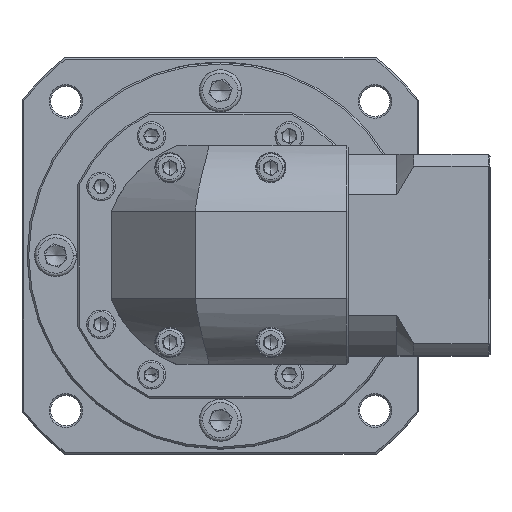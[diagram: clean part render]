
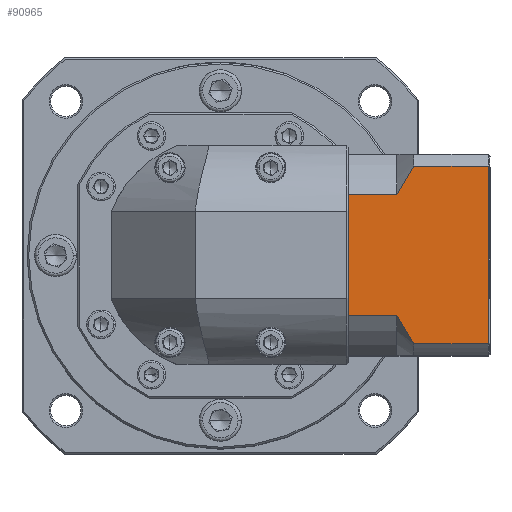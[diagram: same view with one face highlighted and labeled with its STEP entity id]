
A CAD part, top view. The second image highlights one B-rep face of the part: STEP entity #90965.
In plain terms, the highlighted planar face has unit normal (0, 0, 1).
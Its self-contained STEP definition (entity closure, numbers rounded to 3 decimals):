
#2209 = VERTEX_POINT ( 'NONE', #51867 ) ;
#2719 = VERTEX_POINT ( 'NONE', #141644 ) ;
#4077 = CARTESIAN_POINT ( 'NONE',  ( 166.53, 99.487, 2.916 ) ) ;
#5860 = EDGE_CURVE ( 'NONE', #119463, #21417, #12041, .T. ) ;
#6491 = CARTESIAN_POINT ( 'NONE',  ( 143.83, 43.03, 2.916 ) ) ;
#8359 = ORIENTED_EDGE ( 'NONE', *, *, #135238, .F. ) ;
#8448 = LINE ( 'NONE', #118538, #122917 ) ;
#9731 = FACE_OUTER_BOUND ( 'NONE', #33217, .T. ) ;
#9786 = DIRECTION ( 'NONE',  ( 0., -1., 0. ) ) ;
#12041 = LINE ( 'NONE', #105482, #137955 ) ;
#12908 = DIRECTION ( 'NONE',  ( 0., -1., 0. ) ) ;
#15683 = EDGE_CURVE ( 'NONE', #74119, #153371, #29473, .T. ) ;
#15810 = DIRECTION ( 'NONE',  ( 0., 0., -1. ) ) ;
#16829 = DIRECTION ( 'NONE',  ( 1., 0., 0. ) ) ;
#18077 = DIRECTION ( 'NONE',  ( 0., -1., 0. ) ) ;
#18957 = CARTESIAN_POINT ( 'NONE',  ( 140.38, 48.577, 2.916 ) ) ;
#21417 = VERTEX_POINT ( 'NONE', #103660 ) ;
#23585 = CARTESIAN_POINT ( 'NONE',  ( 140.381, 90.398, 2.916 ) ) ;
#23739 = VECTOR ( 'NONE', #82790, 1000. ) ;
#29473 = B_SPLINE_CURVE_WITH_KNOTS ( 'NONE', 3,
 ( #30165, #92012, #18957, #104280, #55761, #6491 ),
 .UNSPECIFIED., .F., .F.,
 ( 4, 2, 4 ),
 ( 0.1, 0.104, 0.109 ),
 .UNSPECIFIED. ) ;
#30165 = CARTESIAN_POINT ( 'NONE',  ( 138.83, 51.459, 2.916 ) ) ;
#30467 = LINE ( 'NONE', #36327, #152598 ) ;
#33217 = EDGE_LOOP ( 'NONE', ( #120926, #123664, #8359, #123119, #107793, #116755, #73394, #72252, #98064, #42567 ) ) ;
#34812 = CARTESIAN_POINT ( 'NONE',  ( 143.83, 95.945, 2.916 ) ) ;
#35987 = VERTEX_POINT ( 'NONE', #52639 ) ;
#36327 = CARTESIAN_POINT ( 'NONE',  ( 138.83, 95.945, 2.916 ) ) ;
#41898 = VERTEX_POINT ( 'NONE', #115260 ) ;
#42567 = ORIENTED_EDGE ( 'NONE', *, *, #15683, .T. ) ;
#42879 = VECTOR ( 'NONE', #51065, 1000. ) ;
#45527 = EDGE_CURVE ( 'NONE', #2719, #153371, #45736, .T. ) ;
#45736 = LINE ( 'NONE', #89924, #125931 ) ;
#48029 = DIRECTION ( 'NONE',  ( 1., 0., 0. ) ) ;
#48117 = EDGE_CURVE ( 'NONE', #21417, #2209, #86653, .T. ) ;
#48537 = LINE ( 'NONE', #85718, #42879 ) ;
#49711 = CARTESIAN_POINT ( 'NONE',  ( 138.83, 51.459, 2.916 ) ) ;
#51065 = DIRECTION ( 'NONE',  ( 1., 0., 0. ) ) ;
#51867 = CARTESIAN_POINT ( 'NONE',  ( 124.33, 51.459, 2.916 ) ) ;
#52639 = CARTESIAN_POINT ( 'NONE',  ( 138.83, 87.515, 2.916 ) ) ;
#55761 = CARTESIAN_POINT ( 'NONE',  ( 142.928, 44.392, 2.916 ) ) ;
#56219 = CARTESIAN_POINT ( 'NONE',  ( 143.83, 95.945, 2.916 ) ) ;
#60350 = VECTOR ( 'NONE', #94941, 1000. ) ;
#67671 = LINE ( 'NONE', #83317, #23739 ) ;
#69902 = CARTESIAN_POINT ( 'NONE',  ( 166.03, 99.487, 2.916 ) ) ;
#72138 = CARTESIAN_POINT ( 'NONE',  ( 142.057, 93.206, 2.916 ) ) ;
#72252 = ORIENTED_EDGE ( 'NONE', *, *, #48117, .T. ) ;
#73394 = ORIENTED_EDGE ( 'NONE', *, *, #5860, .T. ) ;
#74119 = VERTEX_POINT ( 'NONE', #49711 ) ;
#78756 = VERTEX_POINT ( 'NONE', #56219 ) ;
#79410 = B_SPLINE_CURVE_WITH_KNOTS ( 'NONE', 3,
 ( #34812, #119580, #72138, #23585, #120113, #94558 ),
 .UNSPECIFIED., .F., .F.,
 ( 4, 2, 4 ),
 ( 0.052, 0.057, 0.062 ),
 .UNSPECIFIED. ) ;
#82790 = DIRECTION ( 'NONE',  ( -1., 0., 0. ) ) ;
#83317 = CARTESIAN_POINT ( 'NONE',  ( 138.83, 51.459, 2.916 ) ) ;
#85718 = CARTESIAN_POINT ( 'NONE',  ( 138.83, 87.515, 2.916 ) ) ;
#86653 = LINE ( 'NONE', #141518, #136244 ) ;
#89924 = CARTESIAN_POINT ( 'NONE',  ( 138.83, 43.03, 2.916 ) ) ;
#90965 = ADVANCED_FACE ( 'NONE', ( #9731 ), #103216, .F. ) ;
#92012 = CARTESIAN_POINT ( 'NONE',  ( 139.58, 50.003, 2.916 ) ) ;
#94558 = CARTESIAN_POINT ( 'NONE',  ( 138.83, 87.515, 2.916 ) ) ;
#94941 = DIRECTION ( 'NONE',  ( 0., 1., 0. ) ) ;
#95360 = CARTESIAN_POINT ( 'NONE',  ( 124.33, 87.515, 2.916 ) ) ;
#98064 = ORIENTED_EDGE ( 'NONE', *, *, #133720, .F. ) ;
#98418 = EDGE_CURVE ( 'NONE', #124616, #119463, #8448, .T. ) ;
#100405 = LINE ( 'NONE', #69902, #60350 ) ;
#103216 = PLANE ( 'NONE',  #145361 ) ;
#103660 = CARTESIAN_POINT ( 'NONE',  ( 124.33, 52.45, 2.916 ) ) ;
#104280 = CARTESIAN_POINT ( 'NONE',  ( 142.054, 45.772, 2.916 ) ) ;
#105482 = CARTESIAN_POINT ( 'NONE',  ( 124.33, 99.487, 2.916 ) ) ;
#107793 = ORIENTED_EDGE ( 'NONE', *, *, #112441, .F. ) ;
#112441 = EDGE_CURVE ( 'NONE', #124616, #35987, #48537, .T. ) ;
#115260 = CARTESIAN_POINT ( 'NONE',  ( 166.03, 95.945, 2.916 ) ) ;
#116583 = DIRECTION ( 'NONE',  ( -1., 0., 0. ) ) ;
#116755 = ORIENTED_EDGE ( 'NONE', *, *, #98418, .T. ) ;
#118538 = CARTESIAN_POINT ( 'NONE',  ( 124.33, 99.487, 2.916 ) ) ;
#119463 = VERTEX_POINT ( 'NONE', #138219 ) ;
#119580 = CARTESIAN_POINT ( 'NONE',  ( 142.93, 94.585, 2.916 ) ) ;
#120113 = CARTESIAN_POINT ( 'NONE',  ( 139.578, 88.967, 2.916 ) ) ;
#120926 = ORIENTED_EDGE ( 'NONE', *, *, #45527, .F. ) ;
#122917 = VECTOR ( 'NONE', #9786, 1000. ) ;
#123119 = ORIENTED_EDGE ( 'NONE', *, *, #154815, .T. ) ;
#123664 = ORIENTED_EDGE ( 'NONE', *, *, #126822, .T. ) ;
#124616 = VERTEX_POINT ( 'NONE', #95360 ) ;
#125931 = VECTOR ( 'NONE', #116583, 1000. ) ;
#126822 = EDGE_CURVE ( 'NONE', #2719, #41898, #100405, .T. ) ;
#133720 = EDGE_CURVE ( 'NONE', #74119, #2209, #67671, .T. ) ;
#135238 = EDGE_CURVE ( 'NONE', #78756, #41898, #30467, .T. ) ;
#136244 = VECTOR ( 'NONE', #12908, 1000. ) ;
#137955 = VECTOR ( 'NONE', #18077, 1000. ) ;
#138219 = CARTESIAN_POINT ( 'NONE',  ( 124.33, 86.524, 2.916 ) ) ;
#139181 = CARTESIAN_POINT ( 'NONE',  ( 143.83, 43.03, 2.916 ) ) ;
#141518 = CARTESIAN_POINT ( 'NONE',  ( 124.33, 99.487, 2.916 ) ) ;
#141644 = CARTESIAN_POINT ( 'NONE',  ( 166.03, 43.03, 2.916 ) ) ;
#145361 = AXIS2_PLACEMENT_3D ( 'NONE', #4077, #15810, #16829 ) ;
#152598 = VECTOR ( 'NONE', #48029, 1000. ) ;
#153371 = VERTEX_POINT ( 'NONE', #139181 ) ;
#154815 = EDGE_CURVE ( 'NONE', #78756, #35987, #79410, .T. ) ;
